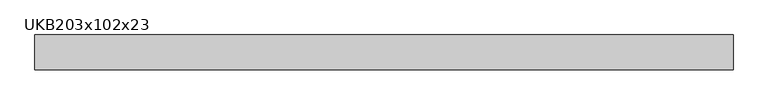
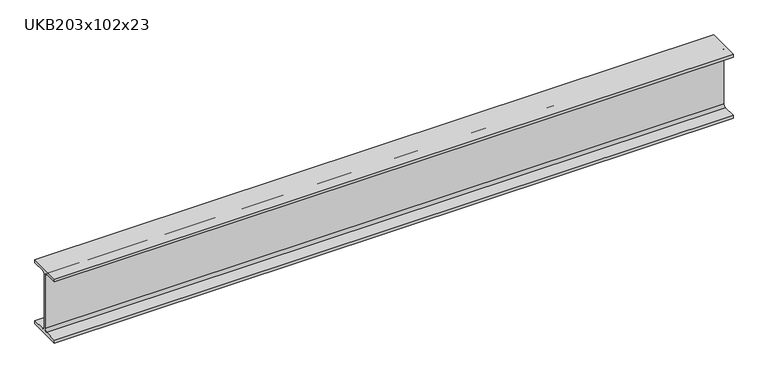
"""IFC4 building model written with IfcOpenShell, lengths in millimetres: beam geometry, UKB-UK Beams : UKB203x102x23."""

from ifc_helpers import new_model, si_unit, point, frame, frame_2d, origin, place, context, project, spatial, polyline, circle_curve, trimmed, segment, composite_curve, outline, extrude, source, transform, mapped, element, save


def ukb203x102x23_350e925e(model_context):
    return source(origin(), model_context, "Body", "SweptSolid", [
        extrude(outline(composite_curve([segment(polyline([(50.9, -92.3), (50.9, -101.6), (-50.9, -101.6), (-50.9, -92.3), (-10.3, -92.3)]), True, "CONTINUOUS"), segment(trimmed(circle_curve(frame_2d((-10.3, -84.7)), 7.6), [point((-10.3, -92.3))], [point((-2.7, -84.7))], True, "CARTESIAN"), True, "CONTINUOUS"), segment(polyline([(-2.7, -84.7), (-2.7, 84.7)]), True, "CONTINUOUS"), segment(trimmed(circle_curve(frame_2d((-10.3, 84.7)), 7.6), [point((-2.7, 84.7))], [point((-10.3, 92.3))], True, "CARTESIAN"), True, "CONTINUOUS"), segment(polyline([(-10.3, 92.3), (-50.9, 92.3), (-50.9, 101.6), (50.9, 101.6), (50.9, 92.3), (10.3, 92.3)]), True, "CONTINUOUS"), segment(trimmed(circle_curve(frame_2d((10.3, 84.7)), 7.6), [point((10.3, 92.3))], [point((2.7, 84.7))], True, "CARTESIAN"), True, "CONTINUOUS"), segment(polyline([(2.7, 84.7), (2.7, -84.7)]), True, "CONTINUOUS"), segment(trimmed(circle_curve(frame_2d((10.3, -84.7)), 7.6), [point((2.7, -84.7))], [point((10.3, -92.3))], True, "CARTESIAN"), True, "CONTINUOUS"), segment(polyline([(10.3, -92.3), (50.9, -92.3)]), True, "CONTINUOUS")], self_intersect=False)), frame((-1042.5, 0.0, 0.0), z_axis=(1.0, 0.0, 0.0), x_axis=(0.0, 1.0, 0.0)), (0.0, 0.0, 1.0), 2040.0),
    ])


if __name__ == "__main__":
    model = new_model("IFC4")
    model_context = context("Model", 3, world=origin())
    ifc_project = project(units=[si_unit("LENGTHUNIT", "METRE", prefix="MILLI")], contexts=[model_context])
    site = spatial("IfcSite", under=ifc_project)
    building = spatial("IfcBuilding", under=site)
    placement = place(None, origin())
    ukb203x102x23_shape = ukb203x102x23_350e925e(model_context)
    element("IfcBeam", 1, ObjectType="UKB-UK Beams : UKB203x102x23", at=placement, inside=building, context=model_context, shape_type="MappedRepresentation", body=[
        mapped(ukb203x102x23_shape, transform((0.0, 0.0, 0.0), x_axis=(1.0, 0.0, 0.0), y_axis=(0.0, 1.0, 0.0), z_axis=(0.0, 0.0, 1.0))),
    ])
    save(model, "model.ifc")
